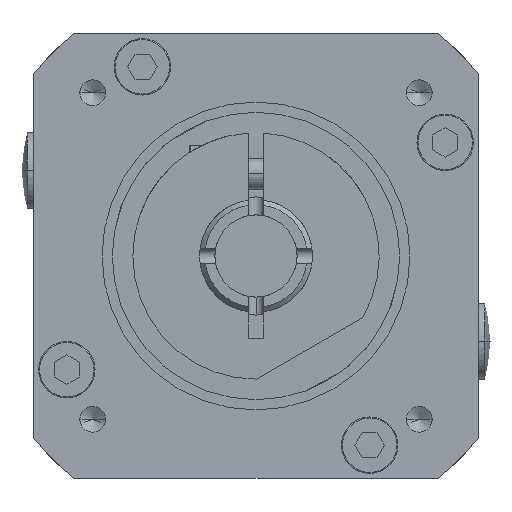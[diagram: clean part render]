
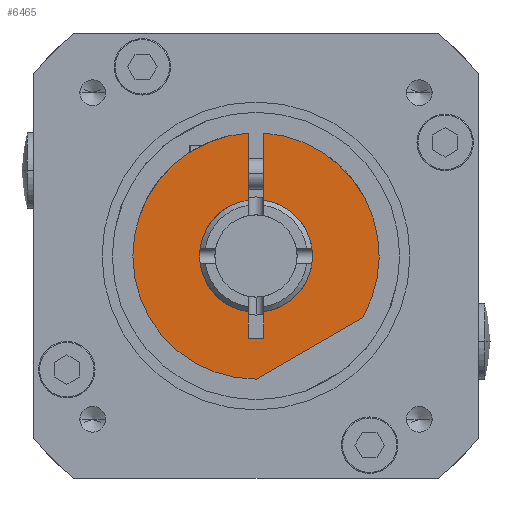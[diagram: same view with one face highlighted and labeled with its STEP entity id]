
A CAD part, left-side view. The second image highlights one B-rep face of the part: STEP entity #6465.
In plain terms, the highlighted planar face has unit normal (-1, 0, 0).
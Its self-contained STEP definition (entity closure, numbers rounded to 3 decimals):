
#15 = EDGE_CURVE ( 'NONE', #7857, #5591, #7146, .T. ) ;
#136 = AXIS2_PLACEMENT_3D ( 'NONE', #6462, #5484, #10760 ) ;
#466 = LINE ( 'NONE', #9463, #11381 ) ;
#708 = CARTESIAN_POINT ( 'NONE',  ( -53.5, 0.75, -8. ) ) ;
#748 = CARTESIAN_POINT ( 'NONE',  ( -53.5, -0.75, 11.977 ) ) ;
#777 = DIRECTION ( 'NONE',  ( 0., -1., 0. ) ) ;
#795 = CARTESIAN_POINT ( 'NONE',  ( -53.5, 0.75, -5.449 ) ) ;
#836 = CARTESIAN_POINT ( 'NONE',  ( -53.5, 0.75, 5.449 ) ) ;
#1321 = VERTEX_POINT ( 'NONE', #9319 ) ;
#1424 = ORIENTED_EDGE ( 'NONE', *, *, #6048, .T. ) ;
#1621 = CARTESIAN_POINT ( 'NONE',  ( -53.5, 0., 0. ) ) ;
#1635 = VERTEX_POINT ( 'NONE', #7859 ) ;
#1641 = VECTOR ( 'NONE', #11398, 1000. ) ;
#1653 = CARTESIAN_POINT ( 'NONE',  ( -53.5, 0.75, -8. ) ) ;
#1665 = DIRECTION ( 'NONE',  ( -1., 0., 0. ) ) ;
#1967 = CARTESIAN_POINT ( 'NONE',  ( -53.5, 5.5, 0. ) ) ;
#2005 = ORIENTED_EDGE ( 'NONE', *, *, #15, .T. ) ;
#2173 = AXIS2_PLACEMENT_3D ( 'NONE', #1621, #1665, #5765 ) ;
#2379 = ORIENTED_EDGE ( 'NONE', *, *, #10040, .T. ) ;
#2525 = VECTOR ( 'NONE', #2787, 1000. ) ;
#2722 = VERTEX_POINT ( 'NONE', #12399 ) ;
#2787 = DIRECTION ( 'NONE',  ( 0., 1., 0. ) ) ;
#2788 = CARTESIAN_POINT ( 'NONE',  ( -53.5, 0., 0. ) ) ;
#2863 = CIRCLE ( 'NONE', #12942, 12. ) ;
#3174 = VERTEX_POINT ( 'NONE', #12758 ) ;
#3646 = EDGE_CURVE ( 'NONE', #10681, #3174, #4671, .T. ) ;
#3756 = AXIS2_PLACEMENT_3D ( 'NONE', #5617, #7786, #9753 ) ;
#3791 = ORIENTED_EDGE ( 'NONE', *, *, #4956, .T. ) ;
#3856 = LINE ( 'NONE', #795, #4178 ) ;
#3862 = CARTESIAN_POINT ( 'NONE',  ( -53.5, 0., 0. ) ) ;
#3941 = DIRECTION ( 'NONE',  ( 0., -1., 0. ) ) ;
#4040 = EDGE_CURVE ( 'NONE', #7023, #1635, #3856, .T. ) ;
#4178 = VECTOR ( 'NONE', #6081, 1000. ) ;
#4336 = CARTESIAN_POINT ( 'NONE',  ( -53.5, 12., 0. ) ) ;
#4406 = VERTEX_POINT ( 'NONE', #6180 ) ;
#4431 = AXIS2_PLACEMENT_3D ( 'NONE', #7325, #11592, #10742 ) ;
#4671 = LINE ( 'NONE', #9631, #8988 ) ;
#4737 = EDGE_CURVE ( 'NONE', #2722, #7857, #2863, .T. ) ;
#4944 = CIRCLE ( 'NONE', #3756, 12. ) ;
#4945 = DIRECTION ( 'NONE',  ( -1., 0., 0. ) ) ;
#4956 = EDGE_CURVE ( 'NONE', #1635, #7241, #7791, .T. ) ;
#5197 = DIRECTION ( 'NONE',  ( 0., 0., 1. ) ) ;
#5241 = EDGE_CURVE ( 'NONE', #11682, #10681, #13436, .T. ) ;
#5484 = DIRECTION ( 'NONE',  ( 1., 0., 0. ) ) ;
#5526 = ORIENTED_EDGE ( 'NONE', *, *, #4737, .T. ) ;
#5591 = VERTEX_POINT ( 'NONE', #12583 ) ;
#5617 = CARTESIAN_POINT ( 'NONE',  ( -53.5, 0., 0. ) ) ;
#5765 = DIRECTION ( 'NONE',  ( 0., -1., 0. ) ) ;
#5981 = LINE ( 'NONE', #708, #2525 ) ;
#6048 = EDGE_CURVE ( 'NONE', #5591, #4406, #12066, .T. ) ;
#6081 = DIRECTION ( 'NONE',  ( 0., 0., 1. ) ) ;
#6180 = CARTESIAN_POINT ( 'NONE',  ( -53.5, -10.385, -6.013 ) ) ;
#6258 = FACE_OUTER_BOUND ( 'NONE', #11829, .T. ) ;
#6462 = CARTESIAN_POINT ( 'NONE',  ( -53.5, 0., 0. ) ) ;
#6465 = ADVANCED_FACE ( 'NONE', ( #6258 ), #7792, .T. ) ;
#6505 = DIRECTION ( 'NONE',  ( 0., -1., 0. ) ) ;
#6902 = ORIENTED_EDGE ( 'NONE', *, *, #12901, .T. ) ;
#7023 = VERTEX_POINT ( 'NONE', #1653 ) ;
#7146 = CIRCLE ( 'NONE', #13387, 12. ) ;
#7241 = VERTEX_POINT ( 'NONE', #1967 ) ;
#7300 = EDGE_CURVE ( 'NONE', #8208, #2722, #466, .T. ) ;
#7325 = CARTESIAN_POINT ( 'NONE',  ( -53.5, 0., 0. ) ) ;
#7456 = CIRCLE ( 'NONE', #4431, 5.5 ) ;
#7786 = DIRECTION ( 'NONE',  ( -1., 0., 0. ) ) ;
#7791 = CIRCLE ( 'NONE', #136, 5.5 ) ;
#7792 = PLANE ( 'NONE',  #2173 ) ;
#7857 = VERTEX_POINT ( 'NONE', #4336 ) ;
#7859 = CARTESIAN_POINT ( 'NONE',  ( -53.5, 0.75, -5.449 ) ) ;
#8208 = VERTEX_POINT ( 'NONE', #836 ) ;
#8257 = LINE ( 'NONE', #748, #10413 ) ;
#8559 = DIRECTION ( 'NONE',  ( 0., 0., -1. ) ) ;
#8988 = VECTOR ( 'NONE', #8559, 1000. ) ;
#9178 = DIRECTION ( 'NONE',  ( -1., 0., 0. ) ) ;
#9319 = CARTESIAN_POINT ( 'NONE',  ( -53.5, -0.75, 11.977 ) ) ;
#9389 = ORIENTED_EDGE ( 'NONE', *, *, #12628, .T. ) ;
#9463 = CARTESIAN_POINT ( 'NONE',  ( -53.5, 0.75, 11.977 ) ) ;
#9492 = CARTESIAN_POINT ( 'NONE',  ( -53.5, 0., 0. ) ) ;
#9587 = AXIS2_PLACEMENT_3D ( 'NONE', #9492, #11889, #6505 ) ;
#9631 = CARTESIAN_POINT ( 'NONE',  ( -53.5, -0.75, -5.449 ) ) ;
#9753 = DIRECTION ( 'NONE',  ( 0., -1., 0. ) ) ;
#10015 = ORIENTED_EDGE ( 'NONE', *, *, #3646, .T. ) ;
#10040 = EDGE_CURVE ( 'NONE', #3174, #7023, #5981, .T. ) ;
#10413 = VECTOR ( 'NONE', #11238, 1000. ) ;
#10681 = VERTEX_POINT ( 'NONE', #11556 ) ;
#10742 = DIRECTION ( 'NONE',  ( 0., -1., 0. ) ) ;
#10760 = DIRECTION ( 'NONE',  ( 0., -1., 0. ) ) ;
#10765 = ORIENTED_EDGE ( 'NONE', *, *, #7300, .T. ) ;
#11162 = ORIENTED_EDGE ( 'NONE', *, *, #5241, .T. ) ;
#11238 = DIRECTION ( 'NONE',  ( 0., 0., -1. ) ) ;
#11362 = CARTESIAN_POINT ( 'NONE',  ( -53.5, -0.75, 5.449 ) ) ;
#11381 = VECTOR ( 'NONE', #5197, 1000. ) ;
#11398 = DIRECTION ( 'NONE',  ( 0., -0.866, 0.5 ) ) ;
#11556 = CARTESIAN_POINT ( 'NONE',  ( -53.5, -0.75, -5.449 ) ) ;
#11592 = DIRECTION ( 'NONE',  ( 1., 0., 0. ) ) ;
#11682 = VERTEX_POINT ( 'NONE', #11362 ) ;
#11812 = EDGE_CURVE ( 'NONE', #7241, #8208, #7456, .T. ) ;
#11829 = EDGE_LOOP ( 'NONE', ( #11162, #10015, #2379, #12815, #3791, #13289, #10765, #5526, #2005, #1424, #6902, #9389 ) ) ;
#11889 = DIRECTION ( 'NONE',  ( 1., 0., 0. ) ) ;
#12066 = LINE ( 'NONE', #13693, #1641 ) ;
#12399 = CARTESIAN_POINT ( 'NONE',  ( -53.5, 0.75, 11.977 ) ) ;
#12583 = CARTESIAN_POINT ( 'NONE',  ( -53.5, -0.015, -12. ) ) ;
#12628 = EDGE_CURVE ( 'NONE', #1321, #11682, #8257, .T. ) ;
#12758 = CARTESIAN_POINT ( 'NONE',  ( -53.5, -0.75, -8. ) ) ;
#12815 = ORIENTED_EDGE ( 'NONE', *, *, #4040, .T. ) ;
#12901 = EDGE_CURVE ( 'NONE', #4406, #1321, #4944, .T. ) ;
#12942 = AXIS2_PLACEMENT_3D ( 'NONE', #3862, #9178, #777 ) ;
#13289 = ORIENTED_EDGE ( 'NONE', *, *, #11812, .T. ) ;
#13387 = AXIS2_PLACEMENT_3D ( 'NONE', #2788, #4945, #3941 ) ;
#13436 = CIRCLE ( 'NONE', #9587, 5.5 ) ;
#13693 = CARTESIAN_POINT ( 'NONE',  ( -53.5, -10.385, -6.013 ) ) ;
